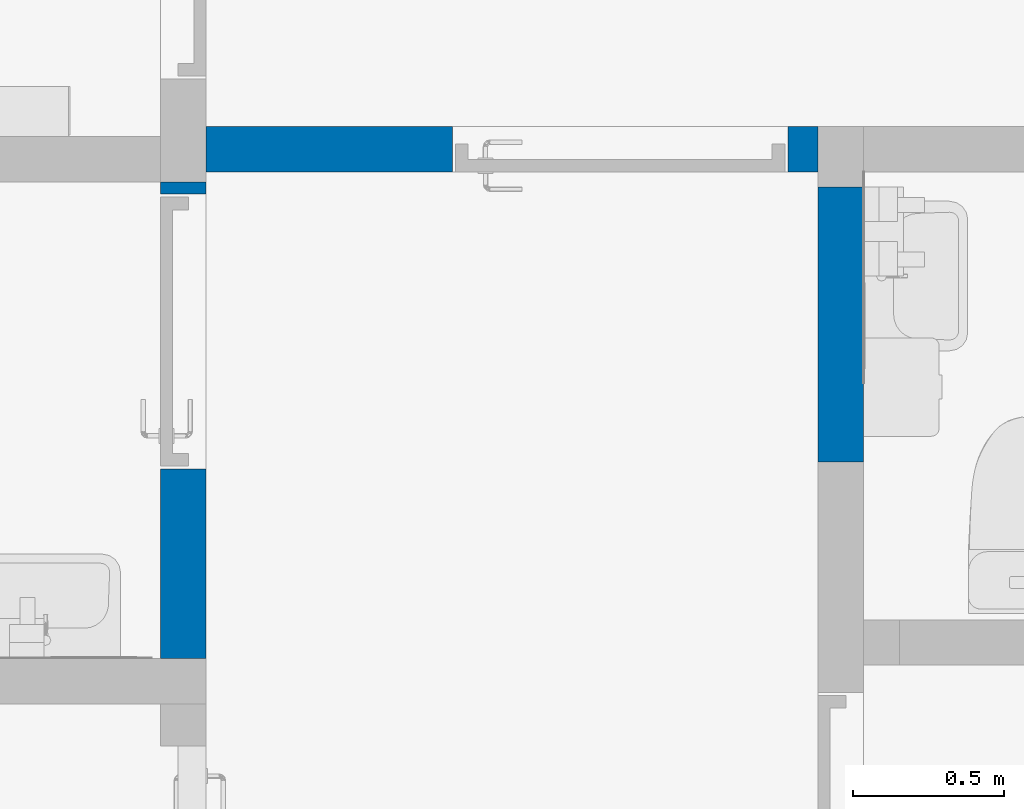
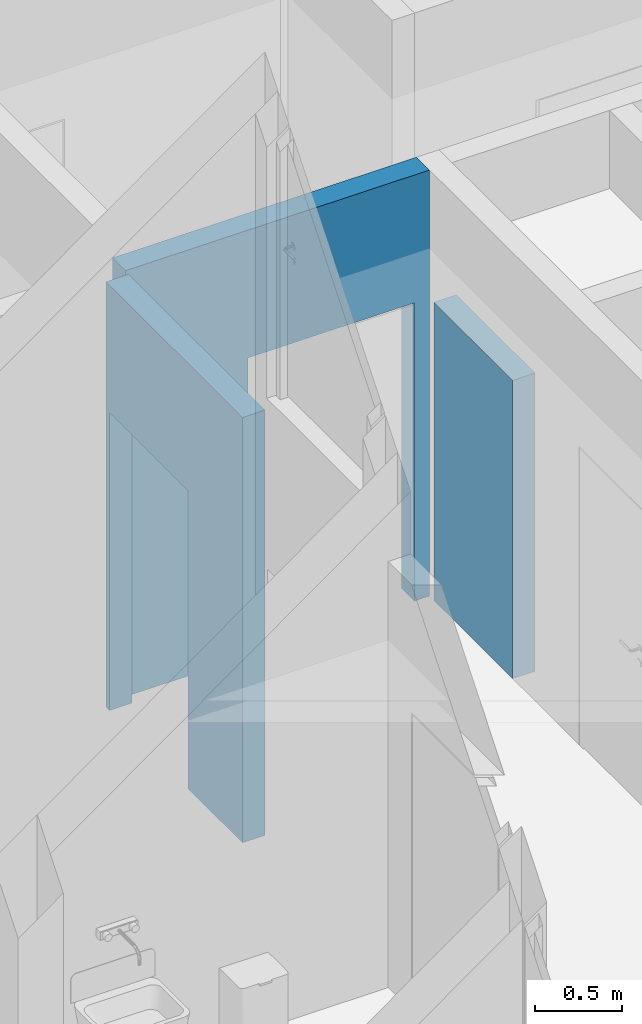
# One storey, part 24 of 58: 3 walls, 3 openings.
"""IFC2X3 building model written with IfcOpenShell, lengths in millimetres."""

from ifc_helpers import new_model, entity, si_unit, converted_unit, derived_unit, direction, frame, frame_2d, origin, place, context, subcontext, project, spatial, rectangle, extrude, clip, halfspace, material, layer, layer_set, layer_usage, type_object, element, save


model = new_model("IFC2X3")

# Units and contexts
model_context = context("Model", 3, precision=0.01, world=origin(), true_north=direction((0.7716245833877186, 0.6360782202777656)))
body_context = subcontext(model_context, "Body", "Model", "MODEL_VIEW")
ifc_project = project(units=[si_unit("LENGTHUNIT", "METRE", prefix="MILLI"), si_unit("AREAUNIT", "SQUARE_METRE"), converted_unit("PLANEANGLEUNIT", "DEGREE", entity("IfcPlaneAngleMeasure", 0.017453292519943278), si_unit("PLANEANGLEUNIT", "RADIAN"), dimensions=[0, 0, 0, 0, 0, 0, 0]), derived_unit("THERMALTRANSMITTANCEUNIT", [(si_unit("MASSUNIT", "GRAM", prefix="KILO"), 1), (si_unit("THERMODYNAMICTEMPERATUREUNIT", "KELVIN"), -1), (si_unit("TIMEUNIT", "SECOND"), -3)])], contexts=[model_context])

# Site, building, storey
site_placement = place(None, origin())
site = spatial("IfcSite", under=ifc_project, at=site_placement, Name="Default", CompositionType="ELEMENT")
building_placement = place(site_placement, origin())
building = spatial("IfcBuilding", under=site, at=building_placement, CompositionType="ELEMENT")
storey_placement = place(building_placement, frame((0.0, 0.0, 31140.0)))
storey = spatial("IfcBuildingStorey", under=building, at=storey_placement, Name="PLAN U1", CompositionType="ELEMENT", Elevation=31140.000000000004)

# Wall, openings
ifc_material_1 = material(Name="Eksist. vegg")
ifc_layer_1 = layer(ifc_material_1, 150.0)
ifc_layer_set_1 = layer_set([ifc_layer_1], Name="Basic Wall:240 Eksist. Innervegg 150 mm")
ifc_layer_usage_1 = layer_usage(ifc_layer_set_1, "AXIS2", "NEGATIVE", 75.0)
wall_type_1 = type_object("IfcWallType", Name="Basic Wall:240 Eksist. Innervegg 150 mm", PredefinedType="STANDARD", material=ifc_layer_set_1)
wall_1_placement = place(storey_placement, frame((261192.9244464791, 60994.50163955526, 0.0), z_axis=(0.0, 0.0, 1.0), x_axis=(0.0, 1.0, 0.0)))
wall_1 = element("IfcWallStandardCase", 1, at=wall_1_placement, inside=storey, type_object=wall_type_1, material=ifc_layer_usage_1, Name="Basic Wall:240 Eksist. Innervegg 150 mm", ObjectType="Basic Wall:240 Eksist. Innervegg 150 mm", context=body_context, shape_type="Clipping", body=[
    clip(extrude(rectangle(XDim=1576.2214321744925, YDim=150.00000000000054, at=frame_2d((788.1107160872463, 0.0), x_axis=(-1.0, 0.0))), origin(), (0.0, 0.0, 1.0), 2994.999999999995), halfspace(frame((0.0, -75.0, 2995.0), z_axis=(0.0, 0.0, 1.0), x_axis=(0.0, 1.0, 0.0)), False)),
])
opening_1_placement = place(wall_1_placement, frame((626.221432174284, -75.0, 0.0)))
element("IfcOpeningElement", 2, at=opening_1_placement, cuts=wall_1, Name="Enfløyet:2441 Innvendig 9x21M:1", ObjectType="Opening", context=body_context, shape_type="SweptSolid", body=[
    extrude(rectangle(XDim=2100.000000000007, YDim=910.0000000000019, at=frame_2d((1050.0000000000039, 455.00000000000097), x_axis=(1.0, 0.0))), frame((0.0, 0.0, 0.0), z_axis=(0.0, 1.0, 0.0), x_axis=(0.0, 0.0, 1.0)), (0.0, 0.0, 1.0), 150.0),
])
opening_2_placement = place(wall_1_placement, frame((-60994.50163955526, 261192.9244464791, 0.0), z_axis=(0.0, 0.0, 1.0), x_axis=(0.0, -1.0, 0.0)))
element("IfcOpeningElement", 3, at=opening_2_placement, cuts=wall_1, Name="Basic Wall:240 Eksist. Innervegg 150 mm", ObjectType="Opening", context=body_context, shape_type="SweptSolid", body=[
    extrude(rectangle(XDim=2100.0000000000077, YDim=910.000000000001, at=frame_2d((0.0, 0.0), x_axis=(0.0, 1.0))), frame((262791.9244464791, 62075.723071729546, 1050.0), z_axis=(-1.0, 0.0, 0.0), x_axis=(0.0, -1.0, 0.0)), (0.0, 0.0, 1.0), 3048.0),
])

# Wall
ifc_material_2 = material(Name="Gips")
ifc_layer_2 = layer(ifc_material_2, 12.5)
ifc_layer_3 = layer(ifc_material_2, 12.5)
ifc_material_3 = material(Name="Stender isolert")
ifc_layer_4 = layer(ifc_material_3, 100.0)
ifc_layer_5 = layer(ifc_material_2, 12.5)
ifc_layer_6 = layer(ifc_material_2, 12.5)
ifc_layer_set_2 = layer_set([ifc_layer_2, ifc_layer_3, ifc_layer_4, ifc_layer_5, ifc_layer_6], Name="Basic Wall:242 IV01 Innervegg 150 mm")
ifc_layer_usage_2 = layer_usage(ifc_layer_set_2, "AXIS2", "NEGATIVE", 75.0)
wall_type_2 = type_object("IfcWallType", Name="Basic Wall:242 IV01 Innervegg 150 mm", PredefinedType="STANDARD", material=ifc_layer_set_2)
wall_2_placement = place(storey_placement, frame((263367.92444647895, 62554.50163955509, 0.0), z_axis=(0.0, 0.0, 1.0), x_axis=(0.0, -1.0, 0.0)))
element("IfcWallStandardCase", 4, at=wall_2_placement, inside=storey, type_object=wall_type_2, material=ifc_layer_usage_2, Name="Basic Wall:242 IV01 Innervegg 150 mm", ObjectType="Basic Wall:242 IV01 Innervegg 150 mm", context=body_context, shape_type="SweptSolid", body=[
    extrude(rectangle(XDim=910.000000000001, YDim=150.00000000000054, at=frame_2d((455.0000000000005, 0.0), x_axis=(-1.0, 0.0))), origin(), (0.0, 0.0, 1.0), 2100.0000000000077),
])

# Wall, opening
ifc_layer_usage_3 = layer_usage(ifc_layer_set_2, "AXIS2", "NEGATIVE", 75.0)
wall_3_placement = place(storey_placement, frame((263292.92444647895, 62679.50163955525, 0.0), z_axis=(0.0, 0.0, 1.0), x_axis=(-1.0, 0.0, 0.0)))
wall_3 = element("IfcWallStandardCase", 5, at=wall_3_placement, inside=storey, type_object=wall_type_2, material=ifc_layer_usage_3, Name="Basic Wall:242 IV01 Innervegg 150 mm", ObjectType="Basic Wall:242 IV01 Innervegg 150 mm", context=body_context, shape_type="SweptSolid", body=[
    extrude(rectangle(XDim=2024.999999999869, YDim=150.00000000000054, at=frame_2d((1012.4999999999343, 3.680611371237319e-12), x_axis=(1.0, 0.0))), origin(), (0.0, 0.0, 1.0), 2999.9999999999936),
])
opening_3_placement = place(wall_3_placement, frame((100.0, -75.0, 0.0)))
element("IfcOpeningElement", 6, at=opening_3_placement, cuts=wall_3, Name="Enfløyet:244 Innvendig AAa 11x21M - Tett:1", ObjectType="Opening", context=body_context, shape_type="SweptSolid", body=[
    extrude(rectangle(XDim=2100.0, YDim=1109.9999999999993, at=frame_2d((1049.9999999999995, 554.9999999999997), x_axis=(1.0, 0.0))), frame((0.0, 0.0, 0.0), z_axis=(0.0, 1.0, 0.0), x_axis=(0.0, 0.0, 1.0)), (0.0, 0.0, 1.0), 150.0),
])

save(model, "model.ifc")
